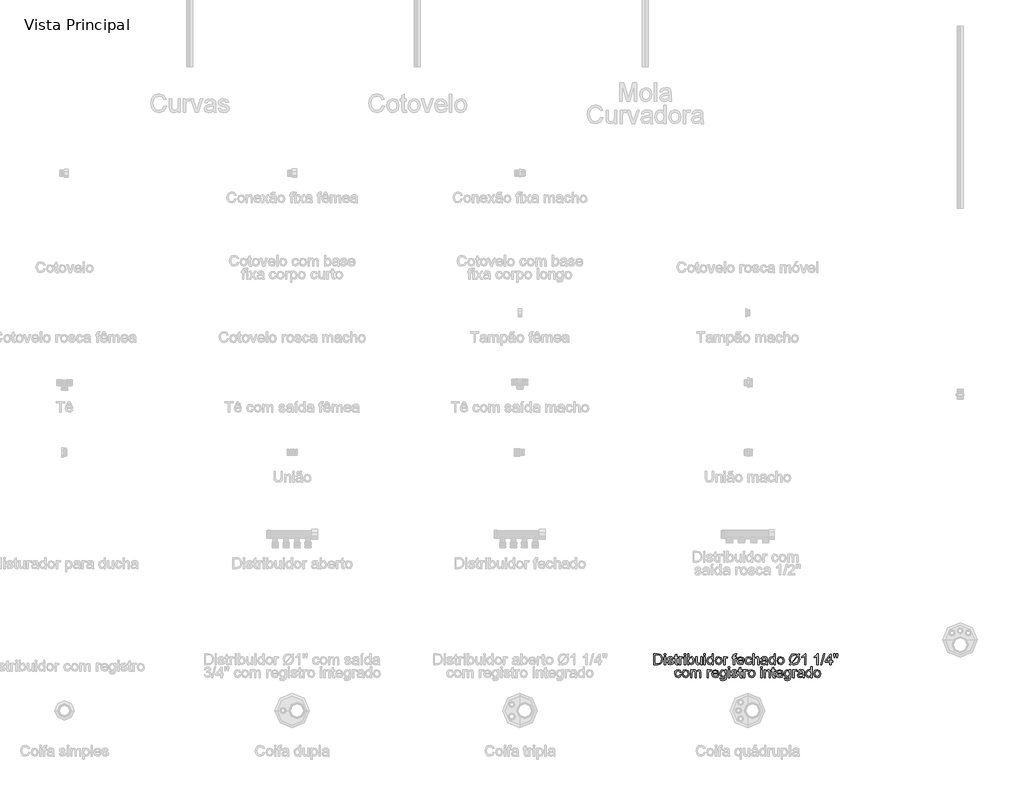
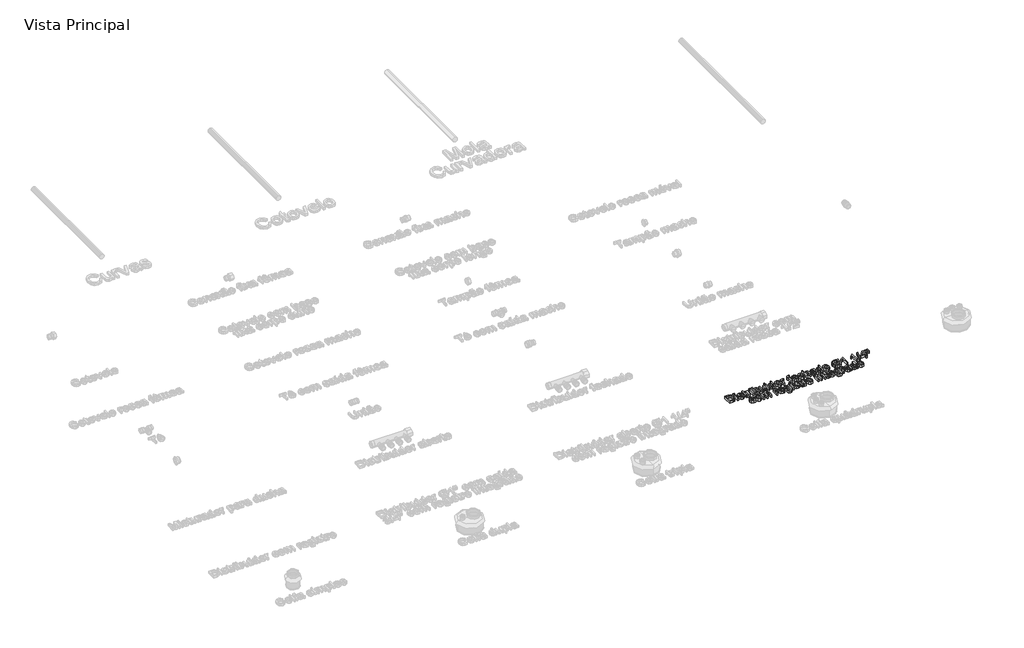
# One storey, part 9 of 12: 1 proxy.
"""IFC4 building model written with IfcOpenShell, lengths in millimetres."""

from ifc_helpers import new_model, si_unit, origin, origin_with_axes, place, context, project, spatial, polyline, outline, extrude, element, save

model = new_model("IFC4")

# Units and contexts
model_context = context("Model", 3, world=origin())
ifc_project = project(units=[si_unit("LENGTHUNIT", "METRE", prefix="MILLI")], contexts=[model_context])

# Site, building, storey
site = spatial("IfcSite", under=ifc_project)
building = spatial("IfcBuilding", under=site)
storey = spatial("IfcBuildingStorey", under=building, Name="Vista Principal", Elevation=0.0)

# Proxy
placement = place(None, origin())
element("IfcBuildingElementProxy", 1, Name="Legenda", ObjectType="Legenda", at=placement, inside=storey, context=model_context, shape_type="SweptSolid", body=[
    extrude(outline(polyline([(860.116207, -1548.3212496), (860.116207, -1513.161541), (872.2452764, -1513.161541), (878.520117, -1513.6679919), (883.6876327, -1516.1830785), (887.8508307, -1522.1918177), (889.2328407, -1530.5525492), (888.2971941, -1537.6471535), (885.8936984, -1542.7674577), (882.6833149, -1545.9563815), (878.4814894, -1547.7203756), (872.8289825, -1548.3212496), (860.116207, -1548.3212496)]), holes=[polyline([(864.5111706, -1543.926286), (872.288196, -1543.926286), (877.9449948, -1543.2910764), (881.2068818, -1541.4970385), (883.8807708, -1537.1321187), (884.8378771, -1530.4838779), (882.9622921, -1522.1574821), (878.3999422, -1518.2603855), (872.1680212, -1517.5565046), (864.5111706, -1517.5565046), (864.5111706, -1543.926286)])]), origin_with_axes(), (0.0, 0.0, 1.0), 10.0),
    extrude(outline(polyline([(894.7265451, -1548.3212496), (894.7265451, -1522.5008386), (899.1215087, -1522.5008386), (899.1215087, -1548.3212496), (894.7265451, -1548.3212496)])), origin_with_axes(), (0.0, 0.0, 1.0), 10.0),
    extrude(outline(polyline([(894.7265451, -1517.5565046), (894.7265451, -1513.161541), (899.1215087, -1513.161541), (899.1215087, -1517.5565046), (894.7265451, -1517.5565046)])), origin_with_axes(), (0.0, 0.0, 1.0), 10.0),
    extrude(outline(polyline([(904.0658427, -1540.6300633), (908.4608063, -1540.0806929), (910.4951937, -1543.3425799), (915.1562586, -1544.4756564), (919.6370613, -1543.4370029), (921.0963266, -1540.9991716), (919.6284774, -1539.0248715), (915.1047551, -1537.7716202), (908.486558, -1535.6213499), (905.5980712, -1533.1105553), (904.6152132, -1529.5653992), (905.4049332, -1526.2906363), (907.5594954, -1523.7884256), (910.3535592, -1522.4879627), (914.1347729, -1521.9514681), (919.4825509, -1522.8141514), (922.8817805, -1525.1489758), (924.3925492, -1529.0932839), (919.9975857, -1529.6426544), (918.3451824, -1527.2176989), (914.4781295, -1526.3464317), (910.272012, -1527.1790713), (909.0101767, -1529.1190357), (911.1733229, -1531.3680209), (914.9588286, -1532.3036675), (921.4096394, -1534.3723906), (924.4054251, -1536.7157989), (925.4912901, -1540.5356403), (924.216579, -1544.7417577), (920.5383722, -1547.7933389), (915.0961712, -1548.87062), (907.4307367, -1546.793313), (904.0658427, -1540.6300633)])), origin_with_axes(), (0.0, 0.0, 1.0), 10.0),
    extrude(outline(polyline([(939.7749217, -1544.6559186), (940.3242922, -1548.4500083), (937.0366534, -1548.87062), (933.3541546, -1548.1409874), (931.5171972, -1546.2267747), (930.9849946, -1541.2395212), (930.9849946, -1526.8958022), (927.6887719, -1526.8958022), (927.6887719, -1522.5008386), (930.9849946, -1522.5008386), (930.9849946, -1516.225998), (935.3799582, -1513.6422401), (935.3799582, -1522.5008386), (939.7749217, -1522.5008386), (939.7749217, -1526.8958022), (935.3799582, -1526.8958022), (935.3799582, -1541.1107625), (935.6117238, -1543.3769155), (939.7749217, -1544.6559186)])), origin_with_axes(), (0.0, 0.0, 1.0), 10.0),
    extrude(outline(polyline([(944.1698853, -1548.3212496), (944.1698853, -1522.5008386), (948.0154784, -1522.5008386), (948.0154784, -1526.32068), (950.7451628, -1522.8012756), (953.4920151, -1521.9514681), (957.9041464, -1523.3077264), (956.4362973, -1527.2477426), (953.3460885, -1526.3464317), (950.8610456, -1527.2134069), (949.2773137, -1529.6169027), (948.5648489, -1534.7500828), (948.5648489, -1548.3212496), (944.1698853, -1548.3212496)])), origin_with_axes(), (0.0, 0.0, 1.0), 10.0),
    extrude(outline(polyline([(960.6509987, -1548.3212496), (960.6509987, -1522.5008386), (965.0459622, -1522.5008386), (965.0459622, -1548.3212496), (960.6509987, -1548.3212496)])), origin_with_axes(), (0.0, 0.0, 1.0), 10.0),
    extrude(outline(polyline([(960.6509987, -1517.5565046), (960.6509987, -1513.161541), (965.0459622, -1513.161541), (965.0459622, -1517.5565046), (960.6509987, -1517.5565046)])), origin_with_axes(), (0.0, 0.0, 1.0), 10.0),
    extrude(outline(polyline([(976.0333712, -1548.3212496), (971.6384076, -1548.3212496), (971.6384076, -1513.161541), (976.0333712, -1513.161541), (976.0333712, -1526.2005052), (982.9348374, -1521.9514681), (987.3383849, -1522.9085745), (990.7547823, -1525.5996313), (992.8535491, -1529.784289), (993.6132254, -1535.024768), (990.4672212, -1545.2567925), (982.9090857, -1548.87062), (976.0333712, -1544.2095551), (976.0333712, -1548.3212496)]), holes=[polyline([(976.0333712, -1535.2307819), (977.235119, -1541.3768638), (982.5313935, -1544.4756564), (987.2353779, -1542.1923355), (989.2182619, -1535.3852923), (987.3169251, -1528.5524974), (982.7202396, -1526.3464317), (978.0162551, -1528.6297526), (976.0333712, -1535.2307819)])]), origin_with_axes(), (0.0, 0.0, 1.0), 10.0),
    extrude(outline(polyline([(1015.0386728, -1548.3212496), (1015.0386728, -1543.8833664), (1007.107137, -1548.87062), (1002.9739828, -1547.9950609), (1000.1241236, -1545.7975791), (998.8150769, -1542.5614438), (998.5575595, -1538.4755011), (998.5575595, -1522.5008386), (1002.952523, -1522.5008386), (1002.952523, -1536.406778), (1003.2186243, -1540.8875807), (1004.9568668, -1543.5185501), (1008.2316297, -1544.4756564), (1011.9012526, -1543.4970903), (1014.326208, -1540.8317853), (1015.0386728, -1535.9346628), (1015.0386728, -1522.5008386), (1019.4336364, -1522.5008386), (1019.4336364, -1548.3212496), (1015.0386728, -1548.3212496)])), origin_with_axes(), (0.0, 0.0, 1.0), 10.0),
    extrude(outline(polyline([(1025.4767113, -1548.3212496), (1025.4767113, -1522.5008386), (1029.8716749, -1522.5008386), (1029.8716749, -1548.3212496), (1025.4767113, -1548.3212496)])), origin_with_axes(), (0.0, 0.0, 1.0), 10.0),
    extrude(outline(polyline([(1025.4767113, -1517.5565046), (1025.4767113, -1513.161541), (1029.8716749, -1513.161541), (1029.8716749, -1517.5565046), (1025.4767113, -1517.5565046)])), origin_with_axes(), (0.0, 0.0, 1.0), 10.0),
    extrude(outline(polyline([(1052.3958632, -1548.3212496), (1052.3958632, -1544.1752195), (1045.4686452, -1548.87062), (1040.0264442, -1547.1710052), (1036.1808511, -1542.4283931), (1034.8160089, -1535.4367958), (1036.0735522, -1528.4409065), (1039.8418901, -1523.6253312), (1045.4514774, -1521.9514681), (1049.5030844, -1523.148924), (1052.3958632, -1526.2605926), (1052.3958632, -1513.161541), (1056.7908267, -1513.161541), (1056.7908267, -1548.3212496), (1052.3958632, -1548.3212496)]), holes=[polyline([(1039.2109725, -1535.419628), (1041.1938564, -1542.2223792), (1045.8720891, -1544.4756564), (1050.4945264, -1542.3253862), (1052.3958632, -1535.7544006), (1050.4601907, -1528.6211687), (1045.691827, -1526.3464317), (1041.0650977, -1528.5310376), (1039.2109725, -1535.419628)])]), origin_with_axes(), (0.0, 0.0, 1.0), 10.0),
    extrude(outline(polyline([(1062.2845312, -1535.4110441), (1066.0872048, -1524.8099112), (1073.8298945, -1521.9514681), (1082.1348305, -1525.432245), (1085.3580899, -1535.0505197), (1083.9331604, -1542.8704647), (1079.7828383, -1547.2954719), (1073.8298945, -1548.87062), (1065.473455, -1545.4027191), (1062.2845312, -1535.4110441)]), holes=[polyline([(1066.6794948, -1535.4024602), (1068.7138822, -1542.2137953), (1073.8298945, -1544.4756564), (1078.9287389, -1542.2009194), (1080.9631264, -1535.2651176), (1078.9158631, -1528.6082928), (1073.8298945, -1526.3464317), (1068.7138822, -1528.5997089), (1066.6794948, -1535.4024602)])]), origin_with_axes(), (0.0, 0.0, 1.0), 10.0),
    extrude(outline(polyline([(1090.302424, -1548.3212496), (1090.302424, -1522.5008386), (1094.1480171, -1522.5008386), (1094.1480171, -1526.32068), (1096.8777015, -1522.8012756), (1099.6245537, -1521.9514681), (1104.0366851, -1523.3077264), (1102.568836, -1527.2477426), (1099.4786272, -1526.3464317), (1096.9935843, -1527.2134069), (1095.4098523, -1529.6169027), (1094.6973875, -1534.7500828), (1094.6973875, -1548.3212496), (1090.302424, -1548.3212496)])), origin_with_axes(), (0.0, 0.0, 1.0), 10.0),
    extrude(outline(polyline([(1121.6165394, -1548.3212496), (1121.6165394, -1526.8958022), (1117.7709463, -1526.8958022), (1117.7709463, -1522.5008386), (1121.6165394, -1522.5008386), (1121.6165394, -1519.8999129), (1122.0800707, -1516.2345819), (1124.329056, -1513.6164884), (1128.7583552, -1512.6121706), (1132.7670427, -1513.0928697), (1132.1232492, -1517.213148), (1129.5909948, -1517.0071341), (1126.8226828, -1517.7367668), (1126.011503, -1520.4578672), (1126.011503, -1522.5008386), (1130.955837, -1522.5008386), (1130.955837, -1526.8958022), (1126.011503, -1526.8958022), (1126.011503, -1548.3212496), (1121.6165394, -1548.3212496)])), origin_with_axes(), (0.0, 0.0, 1.0), 10.0),
    extrude(outline(polyline([(1152.8791513, -1540.6300633), (1157.1882758, -1541.1794338), (1153.1581285, -1546.8534004), (1145.6514964, -1548.87062), (1136.5267967, -1545.3898432), (1133.1533188, -1535.6256419), (1136.5611323, -1525.5395439), (1145.4025629, -1521.9514681), (1153.9907681, -1525.53096), (1157.3256184, -1535.5998902), (1137.5482823, -1536.7844702), (1140.0762448, -1542.4927725), (1145.7373355, -1544.4756564), (1150.04646, -1543.5571777), (1152.8791513, -1540.6300633)]), holes=[polyline([(1137.5482823, -1532.3895066), (1152.9306548, -1532.3895066), (1151.1709526, -1528.4065709), (1145.3853951, -1526.3464317), (1139.9732378, -1527.9902511), (1137.5482823, -1532.3895066)])]), origin_with_axes(), (0.0, 0.0, 1.0), 10.0),
    extrude(outline(polyline([(1178.2016953, -1538.981952), (1182.5966589, -1539.5313224), (1179.0686706, -1546.394161), (1172.098533, -1548.87062), (1163.7678453, -1545.4155949), (1160.6218411, -1535.5054671), (1161.9652235, -1528.2048489), (1166.0597501, -1523.5137404), (1172.0384457, -1521.9514681), (1178.7210221, -1524.0974464), (1182.0472885, -1530.1920248), (1177.6523249, -1530.7413953), (1175.6136455, -1527.4494646), (1172.0727813, -1526.3464317), (1166.9782288, -1528.5181618), (1165.0168046, -1535.3852923), (1166.9353092, -1542.3168023), (1171.9526065, -1544.4756564), (1176.0943446, -1543.1279821), (1178.2016953, -1538.981952)])), origin_with_axes(), (0.0, 0.0, 1.0), 10.0),
    extrude(outline(polyline([(1186.442252, -1548.3212496), (1186.442252, -1513.161541), (1190.8372156, -1513.161541), (1190.8372156, -1526.0889143), (1198.4854823, -1521.9514681), (1203.4212324, -1523.0802527), (1206.4170181, -1526.2005052), (1207.318329, -1531.9774788), (1207.318329, -1548.3212496), (1202.9233654, -1548.3212496), (1202.9233654, -1532.4324262), (1201.5241876, -1527.797113), (1197.5584197, -1526.3464317), (1193.9574681, -1527.3249978), (1191.5539724, -1529.977427), (1190.8372156, -1534.6041562), (1190.8372156, -1548.3212496), (1186.442252, -1548.3212496)])), origin_with_axes(), (0.0, 0.0, 1.0), 10.0),
    extrude(outline(polyline([(1229.8425173, -1545.0250269), (1225.5806044, -1548.0036448), (1220.872328, -1548.87062), (1214.4901885, -1546.7847291), (1212.262663, -1541.454119), (1213.1038865, -1537.9776341), (1215.3142442, -1535.4539636), (1218.391577, -1534.0118662), (1222.1942506, -1533.3509049), (1229.8167655, -1531.8401362), (1228.6321855, -1527.6168509), (1223.7736906, -1526.3464317), (1219.3272236, -1527.1919472), (1217.206997, -1530.1920248), (1212.8120335, -1529.6426544), (1214.7133702, -1525.3506978), (1218.5417955, -1522.8356112), (1224.3402289, -1521.9514681), (1229.6665471, -1522.7326042), (1232.6752086, -1524.6940284), (1234.022883, -1527.6769383), (1234.2374808, -1531.5225314), (1234.2374808, -1536.9904841), (1234.4606626, -1544.6258749), (1235.3362217, -1548.3212496), (1230.9412582, -1548.3212496), (1229.8425173, -1545.0250269)]), holes=[polyline([(1229.8296414, -1536.8574335), (1222.752205, -1537.5827741), (1218.9709912, -1538.2952389), (1217.2585005, -1539.4540672), (1216.6576266, -1541.1450981), (1217.9666733, -1543.5228421), (1221.8079745, -1544.4756564), (1226.2544416, -1543.4241271), (1229.1214686, -1540.8789968), (1229.8296414, -1536.8574335)])]), origin_with_axes(), (0.0, 0.0, 1.0), 10.0),
    extrude(outline(polyline([(1256.2122987, -1548.3212496), (1256.2122987, -1544.1752195), (1249.2850807, -1548.87062), (1243.8428797, -1547.1710052), (1239.9972866, -1542.4283931), (1238.6324444, -1535.4367958), (1239.8899877, -1528.4409065), (1243.6583256, -1523.6253312), (1249.2679129, -1521.9514681), (1253.3195199, -1523.148924), (1256.2122987, -1526.2605926), (1256.2122987, -1513.161541), (1260.6072623, -1513.161541), (1260.6072623, -1548.3212496), (1256.2122987, -1548.3212496)]), holes=[polyline([(1243.027408, -1535.419628), (1245.0102919, -1542.2223792), (1249.6885246, -1544.4756564), (1254.3109619, -1542.3253862), (1256.2122987, -1535.7544006), (1254.2766263, -1528.6211687), (1249.5082625, -1526.3464317), (1244.8815332, -1528.5310376), (1243.027408, -1535.419628)])]), origin_with_axes(), (0.0, 0.0, 1.0), 10.0),
    extrude(outline(polyline([(1266.1009667, -1535.4110441), (1269.9036403, -1524.8099112), (1277.64633, -1521.9514681), (1285.951266, -1525.432245), (1289.1745255, -1535.0505197), (1287.7495959, -1542.8704647), (1283.5992738, -1547.2954719), (1277.64633, -1548.87062), (1269.2898905, -1545.4027191), (1266.1009667, -1535.4110441)]), holes=[polyline([(1270.4959303, -1535.4024602), (1272.5303177, -1542.2137953), (1277.64633, -1544.4756564), (1282.7451745, -1542.2009194), (1284.7795619, -1535.2651176), (1282.7322986, -1528.6082928), (1277.64633, -1526.3464317), (1272.5303177, -1528.5997089), (1270.4959303, -1535.4024602)])]), origin_with_axes(), (0.0, 0.0, 1.0), 10.0),
    extrude(outline(polyline([(1334.2486538, -1516.3805085), (1338.0684952, -1512.8782719), (1341.2359591, -1514.8869076), (1337.2873591, -1519.393462), (1339.5020087, -1524.6210652), (1340.265977, -1531.2049266), (1338.1715021, -1540.565684), (1332.2915216, -1546.7718532), (1324.239811, -1548.87062), (1318.4885891, -1548.1667391), (1313.8618599, -1546.0808482), (1309.9218437, -1550.5788187), (1306.7543797, -1547.7203756), (1310.8145707, -1543.0936464), (1307.5698515, -1536.9819002), (1306.7543797, -1530.8873218), (1308.8960661, -1521.2218355), (1314.9048053, -1514.7967765), (1323.5101783, -1512.6121706), (1329.0940139, -1513.4533941), (1334.2486538, -1516.3805085)]), holes=[polyline([(1334.2829894, -1522.8098595), (1316.7460547, -1542.8103773), (1318.9435365, -1543.7116882), (1323.4844266, -1544.4756564), (1332.3687768, -1540.9047485), (1335.8710134, -1530.8787379), (1334.2829894, -1522.8098595)]), polyline([(1331.3730429, -1519.6509794), (1327.694836, -1517.6337598), (1323.6131853, -1517.0071341), (1314.6773316, -1520.4535753), (1311.1493433, -1530.7413953), (1311.6901298, -1535.5226349), (1313.7760208, -1539.7287524), (1331.3730429, -1519.6509794)])]), origin_with_axes(), (0.0, 0.0, 1.0), 10.0),
    extrude(outline(polyline([(1361.1420539, -1548.3212496), (1356.7470903, -1548.3212496), (1356.7470903, -1520.9213986), (1352.5838924, -1523.8871406), (1347.9571632, -1526.1060821), (1347.9571632, -1521.9514681), (1354.3993901, -1517.8397737), (1358.3093625, -1513.161541), (1361.1420539, -1513.161541), (1361.1420539, -1548.3212496)])), origin_with_axes(), (0.0, 0.0, 1.0), 10.0),
    extrude(outline(polyline([(1401.7954669, -1548.3212496), (1397.4005034, -1548.3212496), (1397.4005034, -1520.9213986), (1393.2373054, -1523.8871406), (1388.6105762, -1526.1060821), (1388.6105762, -1521.9514681), (1395.0528031, -1517.8397737), (1398.9627756, -1513.161541), (1401.7954669, -1513.161541), (1401.7954669, -1548.3212496)])), origin_with_axes(), (0.0, 0.0, 1.0), 10.0),
    extrude(outline(polyline([(1410.0360236, -1548.3212496), (1419.9246916, -1513.161541), (1423.8904595, -1513.161541), (1414.0017915, -1548.3212496), (1410.0360236, -1548.3212496)])), origin_with_axes(), (0.0, 0.0, 1.0), 10.0),
    extrude(outline(polyline([(1440.2513981, -1548.3212496), (1440.2513981, -1540.0806929), (1424.3196552, -1540.0806929), (1424.3196552, -1535.6857293), (1441.350139, -1513.7109115), (1444.6463617, -1513.7109115), (1444.6463617, -1535.6857293), (1449.0413253, -1535.6857293), (1449.0413253, -1540.0806929), (1444.6463617, -1540.0806929), (1444.6463617, -1548.3212496), (1440.2513981, -1548.3212496)]), holes=[polyline([(1440.2513981, -1535.6857293), (1440.2513981, -1522.1059786), (1429.7275205, -1535.6857293), (1440.2513981, -1535.6857293)])]), origin_with_axes(), (0.0, 0.0, 1.0), 10.0),
    extrude(outline(polyline([(1462.724083, -1525.7970613), (1461.6768455, -1519.0071859), (1461.6768455, -1513.161541), (1466.0718091, -1513.161541), (1466.0718091, -1519.0071859), (1465.0417395, -1525.7970613), (1462.724083, -1525.7970613)])), origin_with_axes(), (0.0, 0.0, 1.0), 10.0),
    extrude(outline(polyline([(1453.9599076, -1525.7970613), (1452.8869184, -1519.0071859), (1452.8869184, -1513.161541), (1457.281882, -1513.161541), (1457.281882, -1519.0071859), (1456.3204837, -1525.7970613), (1453.9599076, -1525.7970613)])), origin_with_axes(), (0.0, 0.0, 1.0), 10.0),
    extrude(outline(polyline([(946.0926819, -1581.6731382), (950.4876454, -1582.2225087), (946.9596571, -1589.0853473), (939.9895196, -1591.5618063), (931.6588318, -1588.1067812), (928.5128276, -1578.1966534), (929.85621, -1570.8960352), (933.9507366, -1566.2049266), (939.9294322, -1564.6426544), (946.6120086, -1566.7886327), (949.938275, -1572.8832111), (945.5433114, -1573.4325815), (943.504632, -1570.1406508), (939.9637678, -1569.037618), (934.8692153, -1571.209348), (932.9077911, -1578.0764786), (934.8262958, -1585.0079885), (939.843593, -1587.1668427), (943.9853312, -1585.8191683), (946.0926819, -1581.6731382)])), origin_with_axes(), (0.0, 0.0, 1.0), 10.0),
    extrude(outline(polyline([(953.2344977, -1578.1022303), (957.0371712, -1567.5010975), (964.7798609, -1564.6426544), (973.084797, -1568.1234312), (976.3080564, -1577.741706), (974.8831268, -1585.5616509), (970.7328048, -1589.9866582), (964.7798609, -1591.5618063), (956.4234214, -1588.0939053), (953.2344977, -1578.1022303)]), holes=[polyline([(957.6294612, -1578.0936464), (959.6638487, -1584.9049815), (964.7798609, -1587.1668427), (969.8787054, -1584.8921057), (971.9130928, -1577.9563038), (969.8658295, -1571.2994791), (964.7798609, -1569.037618), (959.6638487, -1571.2908952), (957.6294612, -1578.0936464)])]), origin_with_axes(), (0.0, 0.0, 1.0), 10.0),
    extrude(outline(polyline([(981.2523904, -1591.0124358), (981.2523904, -1565.1920248), (985.647354, -1565.1920248), (985.647354, -1569.4410619), (988.6688914, -1565.9602851), (992.969432, -1564.6426544), (997.3729794, -1565.9860368), (999.793643, -1569.7500828), (1007.5535005, -1564.6426544), (1013.3004304, -1566.7671729), (1015.3133581, -1573.3124067), (1015.3133581, -1591.0124358), (1010.9183945, -1591.0124358), (1010.9183945, -1575.2008677), (1010.5106586, -1571.5312448), (1009.0342255, -1569.724331), (1006.5234309, -1569.037618), (1002.2014306, -1570.7973202), (1000.480356, -1576.4369512), (1000.480356, -1591.0124358), (996.0853925, -1591.0124358), (996.0853925, -1574.7115846), (995.0681987, -1570.4539636), (991.7333484, -1569.037618), (988.4800453, -1569.9818484), (986.3168992, -1572.7458685), (985.647354, -1577.9906394), (985.647354, -1591.0124358), (981.2523904, -1591.0124358)])), origin_with_axes(), (0.0, 0.0, 1.0), 10.0),
    extrude(outline(polyline([(1035.6400646, -1591.0124358), (1035.6400646, -1565.1920248), (1039.4856577, -1565.1920248), (1039.4856577, -1569.0118662), (1042.2153421, -1565.4924618), (1044.9621943, -1564.6426544), (1049.3743257, -1565.9989127), (1047.9064766, -1569.9389288), (1044.8162678, -1569.037618), (1042.3312249, -1569.9045932), (1040.7474929, -1572.3080889), (1040.0350281, -1577.441269), (1040.0350281, -1591.0124358), (1035.6400646, -1591.0124358)])), origin_with_axes(), (0.0, 0.0, 1.0), 10.0),
    extrude(outline(polyline([(1070.1988992, -1583.3212496), (1074.5080236, -1583.87062), (1070.4778764, -1589.5445866), (1062.9712443, -1591.5618063), (1053.8465445, -1588.0810294), (1050.4730666, -1578.3168282), (1053.8808802, -1568.2307301), (1062.7223108, -1564.6426544), (1071.310516, -1568.2221462), (1074.6453662, -1578.2910764), (1054.8680302, -1579.4756564), (1057.3959926, -1585.1839587), (1063.0570834, -1587.1668427), (1067.3662078, -1586.248364), (1070.1988992, -1583.3212496)]), holes=[polyline([(1054.8680302, -1575.0806929), (1070.2504027, -1575.0806929), (1068.4907005, -1571.0977571), (1062.705143, -1569.037618), (1057.2929857, -1570.6814373), (1054.8680302, -1575.0806929)])]), origin_with_axes(), (0.0, 0.0, 1.0), 10.0),
    extrude(outline(polyline([(1077.9415889, -1593.2099176), (1082.3365525, -1593.759288), (1083.7614821, -1596.0769446), (1088.027687, -1597.0555107), (1092.5256575, -1595.9481859), (1094.6716358, -1592.8408093), (1094.9720728, -1587.7162131), (1088.1049422, -1591.0124358), (1080.1948661, -1587.1754266), (1077.3922185, -1577.9734716), (1078.6497618, -1571.1621365), (1082.289341, -1566.3422692), (1087.8903443, -1564.6426544), (1094.9720728, -1568.4882475), (1094.9720728, -1565.1920248), (1099.3670363, -1565.1920248), (1099.3670363, -1587.4844475), (1098.1652885, -1596.0211492), (1094.358323, -1599.991209), (1087.9418478, -1601.4504743), (1080.6326457, -1599.3946271), (1077.9415889, -1593.2099176)]), holes=[polyline([(1081.787182, -1577.6730347), (1083.6627671, -1584.4757859), (1088.3710435, -1586.6174722), (1093.070736, -1584.4886618), (1094.9720728, -1577.8017934), (1093.0149405, -1571.2479756), (1088.3023722, -1569.037618), (1083.6885188, -1571.21364), (1081.787182, -1577.6730347)])]), origin_with_axes(), (0.0, 0.0, 1.0), 10.0),
    extrude(outline(polyline([(1105.9594817, -1560.2476908), (1105.9594817, -1555.8527273), (1110.3544452, -1555.8527273), (1110.3544452, -1560.2476908), (1105.9594817, -1560.2476908)])), origin_with_axes(), (0.0, 0.0, 1.0), 10.0),
    extrude(outline(polyline([(1105.9594817, -1591.0124358), (1105.9594817, -1565.1920248), (1110.3544452, -1565.1920248), (1110.3544452, -1591.0124358), (1105.9594817, -1591.0124358)])), origin_with_axes(), (0.0, 0.0, 1.0), 10.0),
    extrude(outline(polyline([(1115.2987793, -1583.3212496), (1119.6937428, -1582.7718791), (1121.7281303, -1586.0337661), (1126.3891951, -1587.1668427), (1130.8699978, -1586.1281892), (1132.3292631, -1583.6903578), (1130.8614139, -1581.7160578), (1126.3376917, -1580.4628065), (1119.7194946, -1578.3125362), (1116.8310078, -1575.8017416), (1115.8481497, -1572.2565854), (1116.6378697, -1568.9818225), (1118.7924319, -1566.4796118), (1121.5864957, -1565.179149), (1125.3677095, -1564.6426544), (1130.7154874, -1565.5053377), (1134.114717, -1567.8401621), (1135.6254858, -1571.7844702), (1131.2305222, -1572.3338406), (1129.5781189, -1569.9088852), (1125.711066, -1569.037618), (1121.5049485, -1569.8702575), (1120.2431133, -1571.8102219), (1122.4062594, -1574.0592072), (1126.1917651, -1574.9948537), (1132.6425759, -1577.0635768), (1135.6383616, -1579.4069851), (1136.7242267, -1583.2268265), (1135.4495155, -1587.432944), (1131.7713087, -1590.4845251), (1126.3291078, -1591.5618063), (1118.6636732, -1589.4844993), (1115.2987793, -1583.3212496)])), origin_with_axes(), (0.0, 0.0, 1.0), 10.0),
    extrude(outline(polyline([(1151.0078583, -1587.3471049), (1151.5572287, -1591.1411945), (1148.2695899, -1591.5618063), (1144.5870912, -1590.8321736), (1142.7501337, -1588.917961), (1142.2179311, -1583.9307074), (1142.2179311, -1569.5869884), (1138.9217084, -1569.5869884), (1138.9217084, -1565.1920248), (1142.2179311, -1565.1920248), (1142.2179311, -1558.9171843), (1146.6128947, -1556.3334264), (1146.6128947, -1565.1920248), (1151.0078583, -1565.1920248), (1151.0078583, -1569.5869884), (1146.6128947, -1569.5869884), (1146.6128947, -1583.8019487), (1146.8446603, -1586.0681018), (1151.0078583, -1587.3471049)])), origin_with_axes(), (0.0, 0.0, 1.0), 10.0),
    extrude(outline(polyline([(1155.4028218, -1591.0124358), (1155.4028218, -1565.1920248), (1159.248415, -1565.1920248), (1159.248415, -1569.0118662), (1161.9780994, -1565.4924618), (1164.7249516, -1564.6426544), (1169.137083, -1565.9989127), (1167.6692338, -1569.9389288), (1164.5790251, -1569.037618), (1162.0939822, -1569.9045932), (1160.5102502, -1572.3080889), (1159.7977854, -1577.441269), (1159.7977854, -1591.0124358), (1155.4028218, -1591.0124358)])), origin_with_axes(), (0.0, 0.0, 1.0), 10.0),
    extrude(outline(polyline([(1170.7851943, -1578.1022303), (1174.5878679, -1567.5010975), (1182.3305576, -1564.6426544), (1190.6354936, -1568.1234312), (1193.8587531, -1577.741706), (1192.4338235, -1585.5616509), (1188.2835014, -1589.9866582), (1182.3305576, -1591.5618063), (1173.9741181, -1588.0939053), (1170.7851943, -1578.1022303)]), holes=[polyline([(1175.1801579, -1578.0936464), (1177.2145453, -1584.9049815), (1182.3305576, -1587.1668427), (1187.4294021, -1584.8921057), (1189.4637895, -1577.9563038), (1187.4165262, -1571.2994791), (1182.3305576, -1569.037618), (1177.2145453, -1571.2908952), (1175.1801579, -1578.0936464)])]), origin_with_axes(), (0.0, 0.0, 1.0), 10.0),
    extrude(outline(polyline([(1212.5373482, -1560.2476908), (1212.5373482, -1555.8527273), (1216.9323118, -1555.8527273), (1216.9323118, -1560.2476908), (1212.5373482, -1560.2476908)])), origin_with_axes(), (0.0, 0.0, 1.0), 10.0),
    extrude(outline(polyline([(1212.5373482, -1591.0124358), (1212.5373482, -1565.1920248), (1216.9323118, -1565.1920248), (1216.9323118, -1591.0124358), (1212.5373482, -1591.0124358)])), origin_with_axes(), (0.0, 0.0, 1.0), 10.0),
    extrude(outline(polyline([(1223.5247572, -1591.0124358), (1223.5247572, -1565.1920248), (1227.9197207, -1565.1920248), (1227.9197207, -1568.7972684), (1235.8684244, -1564.6426544), (1240.0187464, -1565.4795859), (1242.8514378, -1567.6770677), (1244.1690684, -1570.908911), (1244.4008341, -1575.1579481), (1244.4008341, -1591.0124358), (1240.0058705, -1591.0124358), (1240.0058705, -1575.7502381), (1239.4994197, -1571.8617254), (1237.7096737, -1569.8058782), (1234.6924283, -1569.037618), (1229.9240645, -1570.7629845), (1227.9197207, -1577.3125103), (1227.9197207, -1591.0124358), (1223.5247572, -1591.0124358)])), origin_with_axes(), (0.0, 0.0, 1.0), 10.0),
    extrude(outline(polyline([(1259.7832066, -1587.3471049), (1260.332577, -1591.1411945), (1257.0449383, -1591.5618063), (1253.3624395, -1590.8321736), (1251.5254821, -1588.917961), (1250.9932795, -1583.9307074), (1250.9932795, -1569.5869884), (1247.6970568, -1569.5869884), (1247.6970568, -1565.1920248), (1250.9932795, -1565.1920248), (1250.9932795, -1558.9171843), (1255.388243, -1556.3334264), (1255.388243, -1565.1920248), (1259.7832066, -1565.1920248), (1259.7832066, -1569.5869884), (1255.388243, -1569.5869884), (1255.388243, -1583.8019487), (1255.6200087, -1586.0681018), (1259.7832066, -1587.3471049)])), origin_with_axes(), (0.0, 0.0, 1.0), 10.0),
    extrude(outline(polyline([(1282.2558914, -1583.3212496), (1286.5650158, -1583.87062), (1282.5348686, -1589.5445866), (1275.0282365, -1591.5618063), (1265.9035367, -1588.0810294), (1262.5300588, -1578.3168282), (1265.9378724, -1568.2307301), (1274.779303, -1564.6426544), (1283.3675082, -1568.2221462), (1286.7023585, -1578.2910764), (1266.9250224, -1579.4756564), (1269.4529848, -1585.1839587), (1275.1140756, -1587.1668427), (1279.4232, -1586.248364), (1282.2558914, -1583.3212496)]), holes=[polyline([(1266.9250224, -1575.0806929), (1282.3073949, -1575.0806929), (1280.5476927, -1571.0977571), (1274.7621352, -1569.037618), (1269.3499779, -1570.6814373), (1266.9250224, -1575.0806929)])]), origin_with_axes(), (0.0, 0.0, 1.0), 10.0),
    extrude(outline(polyline([(1289.9985811, -1593.2099176), (1294.3935447, -1593.759288), (1295.8184743, -1596.0769446), (1300.0846792, -1597.0555107), (1304.5826497, -1595.9481859), (1306.728628, -1592.8408093), (1307.029065, -1587.7162131), (1300.1619344, -1591.0124358), (1292.2518584, -1587.1754266), (1289.4492107, -1577.9734716), (1290.706754, -1571.1621365), (1294.3463332, -1566.3422692), (1299.9473366, -1564.6426544), (1307.029065, -1568.4882475), (1307.029065, -1565.1920248), (1311.4240285, -1565.1920248), (1311.4240285, -1587.4844475), (1310.2222807, -1596.0211492), (1306.4153152, -1599.991209), (1299.99884, -1601.4504743), (1292.6896379, -1599.3946271), (1289.9985811, -1593.2099176)]), holes=[polyline([(1293.8441743, -1577.6730347), (1295.7197593, -1584.4757859), (1300.4280357, -1586.6174722), (1305.1277282, -1584.4886618), (1307.029065, -1577.8017934), (1305.0719327, -1571.2479756), (1300.3593644, -1569.037618), (1295.745511, -1571.21364), (1293.8441743, -1577.6730347)])]), origin_with_axes(), (0.0, 0.0, 1.0), 10.0),
    extrude(outline(polyline([(1318.0164739, -1591.0124358), (1318.0164739, -1565.1920248), (1321.862067, -1565.1920248), (1321.862067, -1569.0118662), (1324.5917514, -1565.4924618), (1327.3386036, -1564.6426544), (1331.750735, -1565.9989127), (1330.2828859, -1569.9389288), (1327.1926771, -1569.037618), (1324.7076342, -1569.9045932), (1323.1239023, -1572.3080889), (1322.4114375, -1577.441269), (1322.4114375, -1591.0124358), (1318.0164739, -1591.0124358)])), origin_with_axes(), (0.0, 0.0, 1.0), 10.0),
    extrude(outline(polyline([(1350.9787007, -1587.7162131), (1346.7167877, -1590.694831), (1342.0085113, -1591.5618063), (1335.6263719, -1589.4759153), (1333.3988464, -1584.1453052), (1334.2400699, -1580.6688204), (1336.4504275, -1578.1451499), (1339.5277604, -1576.7030525), (1343.330434, -1576.0420911), (1350.9529489, -1574.5313224), (1349.7683689, -1570.3080371), (1344.909874, -1569.037618), (1340.463407, -1569.8831334), (1338.3431804, -1572.8832111), (1333.9482168, -1572.3338406), (1335.8495536, -1568.041884), (1339.6779789, -1565.5267975), (1345.4764123, -1564.6426544), (1350.8027304, -1565.4237905), (1353.811392, -1567.3852147), (1355.1590664, -1570.3681245), (1355.3736642, -1574.2137176), (1355.3736642, -1579.6816704), (1355.596846, -1587.3170612), (1356.4724051, -1591.0124358), (1352.0774415, -1591.0124358), (1350.9787007, -1587.7162131)]), holes=[polyline([(1350.9658248, -1579.5486197), (1343.8883883, -1580.2739604), (1340.1071746, -1580.9864252), (1338.3946839, -1582.1452534), (1337.7938099, -1583.8362844), (1339.1028567, -1586.2140283), (1342.9441579, -1587.1668427), (1347.3906249, -1586.1153133), (1350.2576519, -1583.570183), (1350.9658248, -1579.5486197)])]), origin_with_axes(), (0.0, 0.0, 1.0), 10.0),
    extrude(outline(polyline([(1377.3484821, -1591.0124358), (1377.3484821, -1586.8664057), (1370.4212641, -1591.5618063), (1364.9790631, -1589.8621914), (1361.13347, -1585.1195794), (1359.7686278, -1578.1279821), (1361.0261711, -1571.1320928), (1364.794509, -1566.3165175), (1370.4040963, -1564.6426544), (1374.4557033, -1565.8401103), (1377.3484821, -1568.9517788), (1377.3484821, -1555.8527273), (1381.7434456, -1555.8527273), (1381.7434456, -1591.0124358), (1377.3484821, -1591.0124358)]), holes=[polyline([(1364.1635914, -1578.1108142), (1366.1464753, -1584.9135655), (1370.824708, -1587.1668427), (1375.4471453, -1585.0165724), (1377.3484821, -1578.4455868), (1375.4128096, -1571.312355), (1370.6444458, -1569.037618), (1366.0177166, -1571.2222239), (1364.1635914, -1578.1108142)])]), origin_with_axes(), (0.0, 0.0, 1.0), 10.0),
    extrude(outline(polyline([(1387.2371501, -1578.1022303), (1391.0398237, -1567.5010975), (1398.7825134, -1564.6426544), (1407.0874494, -1568.1234312), (1410.3107088, -1577.741706), (1408.8857792, -1585.5616509), (1404.7354572, -1589.9866582), (1398.7825134, -1591.5618063), (1390.4260739, -1588.0939053), (1387.2371501, -1578.1022303)]), holes=[polyline([(1391.6321137, -1578.0936464), (1393.6665011, -1584.9049815), (1398.7825134, -1587.1668427), (1403.8813578, -1584.8921057), (1405.9157453, -1577.9563038), (1403.868482, -1571.2994791), (1398.7825134, -1569.037618), (1393.6665011, -1571.2908952), (1391.6321137, -1578.0936464)])]), origin_with_axes(), (0.0, 0.0, 1.0), 10.0),
])

save(model, "model.ifc")
